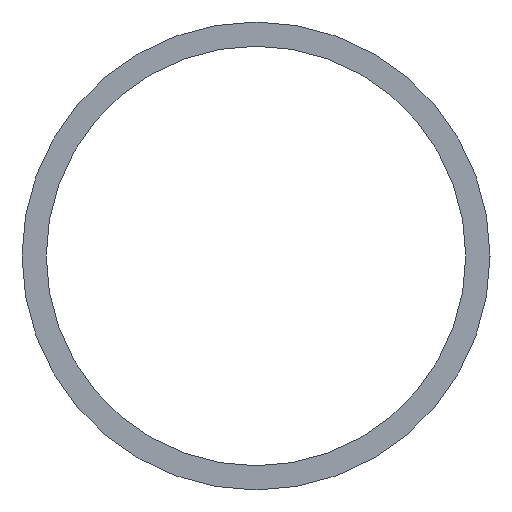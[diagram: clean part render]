
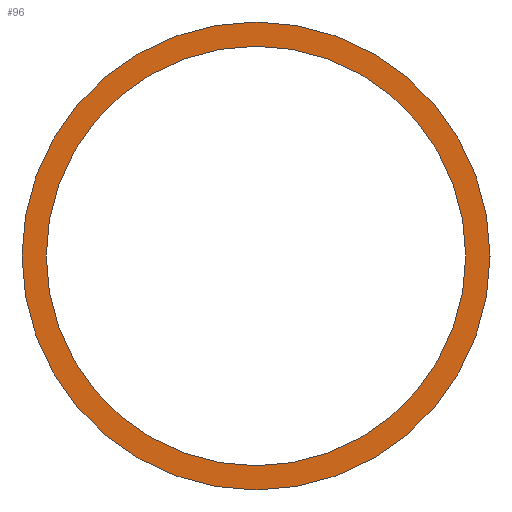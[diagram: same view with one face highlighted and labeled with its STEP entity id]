
A CAD part, left-side view. The second image highlights one B-rep face of the part: STEP entity #96.
In plain terms, the highlighted planar face has unit normal (-1, 0, 0).
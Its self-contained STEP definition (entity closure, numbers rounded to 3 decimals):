
#3 = CARTESIAN_POINT ( 'NONE',  ( -85., 3775., 3495.85 ) ) ;
#5 = CARTESIAN_POINT ( 'NONE',  ( -85., 3750.85, 3495.85 ) ) ;
#14 = EDGE_LOOP ( 'NONE', ( #91, #76 ) ) ;
#22 = FACE_OUTER_BOUND ( 'NONE', #14, .T. ) ;
#28 = AXIS2_PLACEMENT_3D ( 'NONE', #128, #132, #214 ) ;
#34 = CARTESIAN_POINT ( 'NONE',  ( -85., 3796.65, 3495.85 ) ) ;
#37 = FACE_BOUND ( 'NONE', #43, .T. ) ;
#39 = CARTESIAN_POINT ( 'NONE',  ( -85., 3775., 3495.85 ) ) ;
#40 = CARTESIAN_POINT ( 'NONE',  ( -85., 3753.35, 3495.85 ) ) ;
#43 = EDGE_LOOP ( 'NONE', ( #157, #95 ) ) ;
#75 = VERTEX_POINT ( 'NONE', #5 ) ;
#76 = ORIENTED_EDGE ( 'NONE', *, *, #125, .F. ) ;
#78 = DIRECTION ( 'NONE',  ( 0., 1., 0. ) ) ;
#80 = EDGE_CURVE ( 'NONE', #179, #92, #121, .T. ) ;
#84 = EDGE_CURVE ( 'NONE', #75, #141, #174, .T. ) ;
#86 = AXIS2_PLACEMENT_3D ( 'NONE', #164, #136, #205 ) ;
#89 = CIRCLE ( 'NONE', #178, 21.65 ) ;
#91 = ORIENTED_EDGE ( 'NONE', *, *, #84, .F. ) ;
#92 = VERTEX_POINT ( 'NONE', #34 ) ;
#95 = ORIENTED_EDGE ( 'NONE', *, *, #213, .T. ) ;
#96 = ADVANCED_FACE ( 'NONE', ( #22, #37 ), #182, .F. ) ;
#100 = DIRECTION ( 'NONE',  ( 1., 0., 0. ) ) ;
#121 = CIRCLE ( 'NONE', #28, 21.65 ) ;
#125 = EDGE_CURVE ( 'NONE', #141, #75, #200, .T. ) ;
#128 = CARTESIAN_POINT ( 'NONE',  ( -85., 3775., 3495.85 ) ) ;
#130 = DIRECTION ( 'NONE',  ( 1., 0., 0. ) ) ;
#132 = DIRECTION ( 'NONE',  ( 1., 0., 0. ) ) ;
#133 = DIRECTION ( 'NONE',  ( 1., 0., 0. ) ) ;
#136 = DIRECTION ( 'NONE',  ( 1., 0., 0. ) ) ;
#138 = AXIS2_PLACEMENT_3D ( 'NONE', #3, #130, #196 ) ;
#141 = VERTEX_POINT ( 'NONE', #204 ) ;
#145 = AXIS2_PLACEMENT_3D ( 'NONE', #162, #100, #78 ) ;
#151 = DIRECTION ( 'NONE',  ( 0., 1., 0. ) ) ;
#157 = ORIENTED_EDGE ( 'NONE', *, *, #80, .T. ) ;
#162 = CARTESIAN_POINT ( 'NONE',  ( -85., 3775., 3495.85 ) ) ;
#164 = CARTESIAN_POINT ( 'NONE',  ( -85., 3775., 3495.85 ) ) ;
#174 = CIRCLE ( 'NONE', #145, 24.15 ) ;
#178 = AXIS2_PLACEMENT_3D ( 'NONE', #39, #133, #151 ) ;
#179 = VERTEX_POINT ( 'NONE', #40 ) ;
#182 = PLANE ( 'NONE',  #138 ) ;
#196 = DIRECTION ( 'NONE',  ( 0., 1., 0. ) ) ;
#200 = CIRCLE ( 'NONE', #86, 24.15 ) ;
#204 = CARTESIAN_POINT ( 'NONE',  ( -85., 3799.15, 3495.85 ) ) ;
#205 = DIRECTION ( 'NONE',  ( 0., 1., 0. ) ) ;
#213 = EDGE_CURVE ( 'NONE', #92, #179, #89, .T. ) ;
#214 = DIRECTION ( 'NONE',  ( 0., 1., 0. ) ) ;
